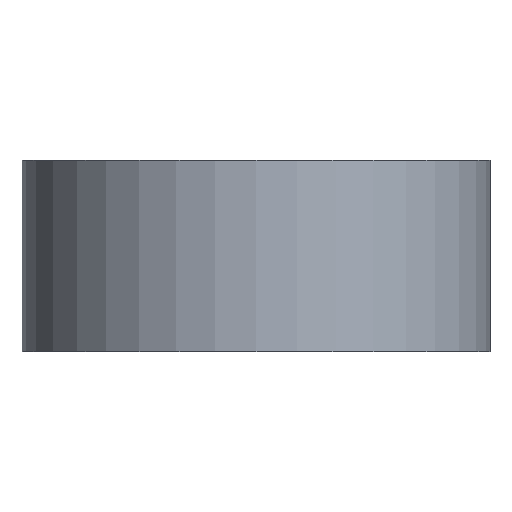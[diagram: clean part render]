
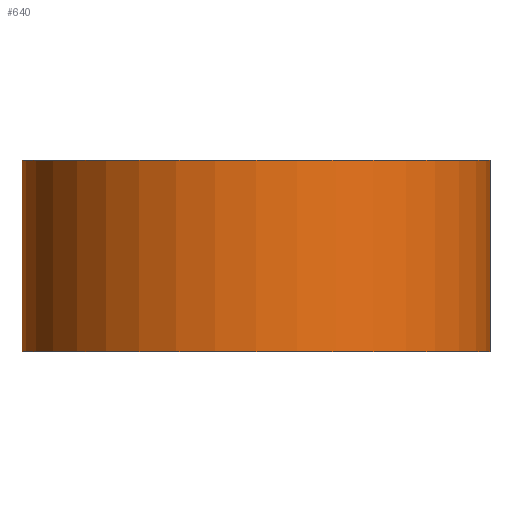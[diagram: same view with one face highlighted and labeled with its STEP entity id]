
A CAD part, front view. The second image highlights one B-rep face of the part: STEP entity #640.
In plain terms, the highlighted cylindrical face has radius 55 mm (diameter 110 mm), a partial arc.
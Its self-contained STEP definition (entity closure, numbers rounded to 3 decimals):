
#370 = CARTESIAN_POINT ( 'NONE',  ( 55., 0., 0. ) ) ;
#409 = DIRECTION ( 'NONE',  ( 1., 0., 0. ) ) ;
#410 = DIRECTION ( 'NONE',  ( 0., 0., 1. ) ) ;
#411 = CARTESIAN_POINT ( 'NONE',  ( 0., 0., 0. ) ) ;
#416 = VECTOR ( 'NONE', #425, 1000. ) ;
#417 = CARTESIAN_POINT ( 'NONE',  ( -55., 0., 0. ) ) ;
#418 = AXIS2_PLACEMENT_3D ( 'NONE', #411, #410, #409 ) ;
#421 = DIRECTION ( 'NONE',  ( 1., 0., 0. ) ) ;
#422 = AXIS2_PLACEMENT_3D ( 'NONE', #424, #500, #421 ) ;
#423 = LINE ( 'NONE', #426, #416 ) ;
#424 = CARTESIAN_POINT ( 'NONE',  ( 0., 0., 45. ) ) ;
#425 = DIRECTION ( 'NONE',  ( 0., 0., -1. ) ) ;
#426 = CARTESIAN_POINT ( 'NONE',  ( -55., 0., 1.5 ) ) ;
#430 = CARTESIAN_POINT ( 'NONE',  ( 55., 0., 45. ) ) ;
#493 = DIRECTION ( 'NONE',  ( -1., 0., 0. ) ) ;
#494 = CARTESIAN_POINT ( 'NONE',  ( -55., 0., 45. ) ) ;
#495 = FACE_OUTER_BOUND ( 'NONE', #642, .T. ) ;
#496 = CIRCLE ( 'NONE', #418, 55. ) ;
#500 = DIRECTION ( 'NONE',  ( 0., 0., 1. ) ) ;
#501 = AXIS2_PLACEMENT_3D ( 'NONE', #505, #504, #493 ) ;
#504 = DIRECTION ( 'NONE',  ( 0., 0., -1. ) ) ;
#505 = CARTESIAN_POINT ( 'NONE',  ( 0., 0., 1.5 ) ) ;
#506 = CYLINDRICAL_SURFACE ( 'NONE', #501, 55. ) ;
#525 = DIRECTION ( 'NONE',  ( 0., 0., -1. ) ) ;
#526 = VECTOR ( 'NONE', #525, 1000. ) ;
#527 = CARTESIAN_POINT ( 'NONE',  ( 55., 0., 1.5 ) ) ;
#528 = LINE ( 'NONE', #527, #526 ) ;
#544 = CIRCLE ( 'NONE', #422, 55. ) ;
#623 = ORIENTED_EDGE ( 'NONE', *, *, #647, .T. ) ;
#640 = ADVANCED_FACE ( 'NONE', ( #495 ), #506, .T. ) ;
#641 = EDGE_CURVE ( 'NONE', #643, #684, #544, .T. ) ;
#642 = EDGE_LOOP ( 'NONE', ( #644, #646, #623, #645 ) ) ;
#643 = VERTEX_POINT ( 'NONE', #494 ) ;
#644 = ORIENTED_EDGE ( 'NONE', *, *, #697, .F. ) ;
#645 = ORIENTED_EDGE ( 'NONE', *, *, #649, .T. ) ;
#646 = ORIENTED_EDGE ( 'NONE', *, *, #641, .F. ) ;
#647 = EDGE_CURVE ( 'NONE', #643, #648, #423, .T. ) ;
#648 = VERTEX_POINT ( 'NONE', #417 ) ;
#649 = EDGE_CURVE ( 'NONE', #648, #660, #496, .T. ) ;
#660 = VERTEX_POINT ( 'NONE', #370 ) ;
#684 = VERTEX_POINT ( 'NONE', #430 ) ;
#697 = EDGE_CURVE ( 'NONE', #684, #660, #528, .T. ) ;
